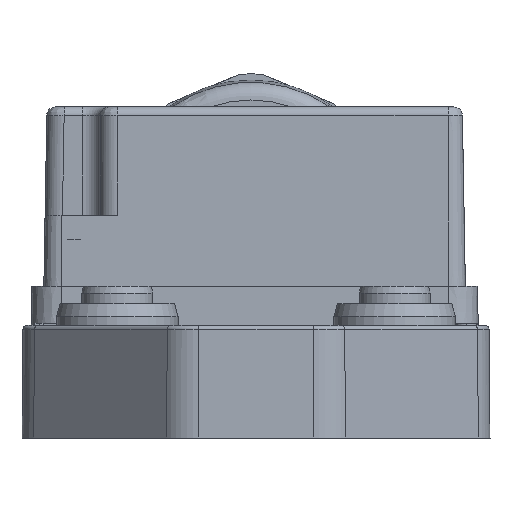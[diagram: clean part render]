
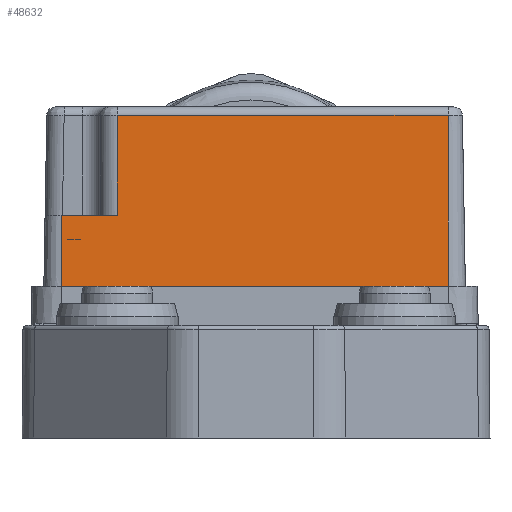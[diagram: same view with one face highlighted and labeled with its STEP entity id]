
A CAD part, left-side view. The second image highlights one B-rep face of the part: STEP entity #48632.
In plain terms, the highlighted planar face has unit normal (-1, 0, 0.018) as drawn and (0, 1, -0.017) by its records, which use the part's own axes.
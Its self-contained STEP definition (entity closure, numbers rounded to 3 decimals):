
#47823=CARTESIAN_POINT('',(22.747,17.512,-4.5));
#47824=VERTEX_POINT('',#47823);
#47832=CARTESIAN_POINT('',(-21.907,17.512,-4.5));
#47833=VERTEX_POINT('',#47832);
#47834=CARTESIAN_POINT('',(22.747,17.512,-4.5));
#47835=DIRECTION('',(-1.0,0.0,0.0));
#47836=VECTOR('',#47835,44.654);
#47837=LINE('',#47834,#47836);
#47838=EDGE_CURVE('',#47824,#47833,#47837,.T.);
#48251=CARTESIAN_POINT('',(-15.402,17.168,-24.217));
#48252=VERTEX_POINT('',#48251);
#48294=CARTESIAN_POINT('',(-15.402,17.369,-12.7));
#48295=VERTEX_POINT('',#48294);
#48303=CARTESIAN_POINT('',(-15.402,17.369,-12.7));
#48304=DIRECTION('',(0.0,-0.017,-1.));
#48305=VECTOR('',#48304,11.519);
#48306=LINE('',#48303,#48305);
#48307=EDGE_CURVE('',#48295,#48252,#48306,.T.);
#48450=CARTESIAN_POINT('',(22.747,17.168,-24.217));
#48451=VERTEX_POINT('',#48450);
#48477=CARTESIAN_POINT('',(-15.402,17.168,-24.217));
#48478=DIRECTION('',(1.0,0.0,0.0));
#48479=VECTOR('',#48478,38.148);
#48480=LINE('',#48477,#48479);
#48481=EDGE_CURVE('',#48252,#48451,#48480,.T.);
#48596=CARTESIAN_POINT('',(22.747,17.512,-4.5));
#48597=DIRECTION('',(0.0,-0.017,-1.));
#48598=VECTOR('',#48597,19.72);
#48599=LINE('',#48596,#48598);
#48600=EDGE_CURVE('',#47824,#48451,#48599,.T.);
#48607=CARTESIAN_POINT('',(22.747,17.512,-4.5));
#48608=DIRECTION('',(0.,1.,-0.017));
#48609=DIRECTION('',(1.0,0.0,0.0));
#48610=AXIS2_PLACEMENT_3D('',#48607,#48608,#48609);
#48611=PLANE('',#48610);
#48612=ORIENTED_EDGE('',*,*,#48481,.F.);
#48613=ORIENTED_EDGE('',*,*,#48307,.F.);
#48614=CARTESIAN_POINT('',(-21.907,17.369,-12.7));
#48615=VERTEX_POINT('',#48614);
#48616=CARTESIAN_POINT('',(-21.907,17.369,-12.7));
#48617=DIRECTION('',(1.0,0.0,0.0));
#48618=VECTOR('',#48617,6.505);
#48619=LINE('',#48616,#48618);
#48620=EDGE_CURVE('',#48615,#48295,#48619,.T.);
#48621=ORIENTED_EDGE('',*,*,#48620,.F.);
#48622=CARTESIAN_POINT('',(-21.907,17.512,-4.5));
#48623=DIRECTION('',(0.0,-0.017,-1.));
#48624=VECTOR('',#48623,8.201);
#48625=LINE('',#48622,#48624);
#48626=EDGE_CURVE('',#47833,#48615,#48625,.T.);
#48627=ORIENTED_EDGE('',*,*,#48626,.F.);
#48628=ORIENTED_EDGE('',*,*,#47838,.F.);
#48629=ORIENTED_EDGE('',*,*,#48600,.T.);
#48630=EDGE_LOOP('',(#48612,#48613,#48621,#48627,#48628,#48629));
#48631=FACE_OUTER_BOUND('',#48630,.T.);
#48632=ADVANCED_FACE('',(#48631),#48611,.T.);
